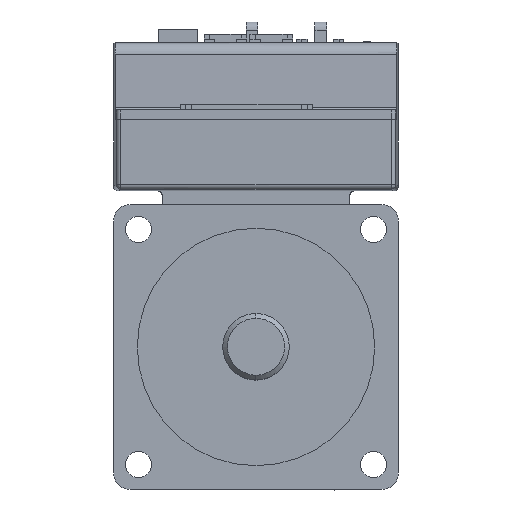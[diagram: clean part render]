
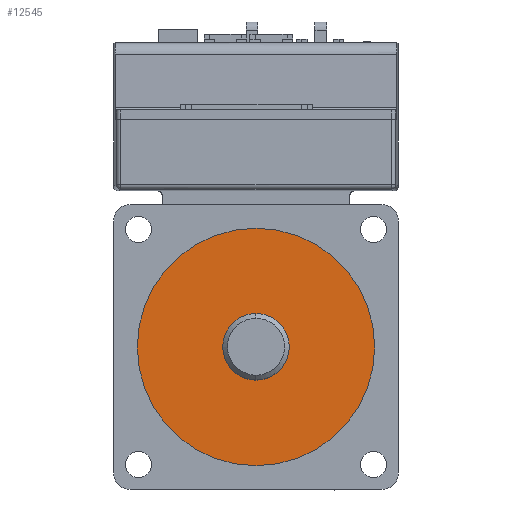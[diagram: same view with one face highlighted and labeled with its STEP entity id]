
A CAD part, top view. The second image highlights one B-rep face of the part: STEP entity #12545.
In plain terms, the highlighted planar face has unit normal (0, 0, 1).
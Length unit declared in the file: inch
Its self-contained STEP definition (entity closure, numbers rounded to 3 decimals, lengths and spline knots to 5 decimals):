
#813 = PLANE ( 'NONE',  #36009 ) ;
#3187 = AXIS2_PLACEMENT_3D ( 'NONE', #70668, #19687, #42557 ) ;
#3361 = CIRCLE ( 'NONE', #3187, 0.98425 ) ;
#7595 = CARTESIAN_POINT ( 'NONE',  ( -0.27559, 0., 3.6811 ) ) ;
#11840 = EDGE_LOOP ( 'NONE', ( #69015, #19694 ) ) ;
#12130 = VERTEX_POINT ( 'NONE', #69245 ) ;
#12545 = ADVANCED_FACE ( 'NONE', ( #29214, #52058 ), #813, .T. ) ;
#13064 = DIRECTION ( 'NONE',  ( 1., 0., 0. ) ) ;
#15681 = CARTESIAN_POINT ( 'NONE',  ( 0., 0., 3.6811 ) ) ;
#19687 = DIRECTION ( 'NONE',  ( 0., 0., -1. ) ) ;
#19694 = ORIENTED_EDGE ( 'NONE', *, *, #53461, .T. ) ;
#21080 = CARTESIAN_POINT ( 'NONE',  ( 0., 0., 3.6811 ) ) ;
#23628 = CARTESIAN_POINT ( 'NONE',  ( 0., 0., 3.6811 ) ) ;
#28697 = CARTESIAN_POINT ( 'NONE',  ( 0.98425, 0., 3.6811 ) ) ;
#29214 = FACE_BOUND ( 'NONE', #11840, .T. ) ;
#32979 = EDGE_CURVE ( 'NONE', #35830, #67874, #36767, .T. ) ;
#34215 = CARTESIAN_POINT ( 'NONE',  ( 0.27559, 0., 3.6811 ) ) ;
#35830 = VERTEX_POINT ( 'NONE', #34215 ) ;
#36009 = AXIS2_PLACEMENT_3D ( 'NONE', #23628, #46506, #69056 ) ;
#36727 = AXIS2_PLACEMENT_3D ( 'NONE', #21080, #43967, #66554 ) ;
#36767 = CIRCLE ( 'NONE', #36727, 0.27559 ) ;
#38513 = DIRECTION ( 'NONE',  ( 0., 0., -1. ) ) ;
#40777 = EDGE_CURVE ( 'NONE', #56147, #12130, #3361, .T. ) ;
#41514 = CARTESIAN_POINT ( 'NONE',  ( 0., 0., 3.6811 ) ) ;
#41609 = ORIENTED_EDGE ( 'NONE', *, *, #40777, .F. ) ;
#42557 = DIRECTION ( 'NONE',  ( 1., 0., 0. ) ) ;
#43967 = DIRECTION ( 'NONE',  ( 0., 0., -1. ) ) ;
#45762 = AXIS2_PLACEMENT_3D ( 'NONE', #15681, #38513, #61200 ) ;
#45800 = CIRCLE ( 'NONE', #45762, 0.27559 ) ;
#46506 = DIRECTION ( 'NONE',  ( 0., 0., 1. ) ) ;
#52058 = FACE_OUTER_BOUND ( 'NONE', #61206, .T. ) ;
#53461 = EDGE_CURVE ( 'NONE', #67874, #35830, #45800, .T. ) ;
#56147 = VERTEX_POINT ( 'NONE', #28697 ) ;
#59117 = EDGE_CURVE ( 'NONE', #12130, #56147, #72699, .T. ) ;
#61200 = DIRECTION ( 'NONE',  ( 1., 0., 0. ) ) ;
#61206 = EDGE_LOOP ( 'NONE', ( #41609, #61760 ) ) ;
#61760 = ORIENTED_EDGE ( 'NONE', *, *, #59117, .F. ) ;
#64148 = DIRECTION ( 'NONE',  ( 0., 0., -1. ) ) ;
#66554 = DIRECTION ( 'NONE',  ( 1., 0., 0. ) ) ;
#67874 = VERTEX_POINT ( 'NONE', #7595 ) ;
#69015 = ORIENTED_EDGE ( 'NONE', *, *, #32979, .T. ) ;
#69056 = DIRECTION ( 'NONE',  ( 1., 0., 0. ) ) ;
#69245 = CARTESIAN_POINT ( 'NONE',  ( -0.98425, 0., 3.6811 ) ) ;
#70668 = CARTESIAN_POINT ( 'NONE',  ( 0., 0., 3.6811 ) ) ;
#72644 = AXIS2_PLACEMENT_3D ( 'NONE', #41514, #64148, #13064 ) ;
#72699 = CIRCLE ( 'NONE', #72644, 0.98425 ) ;
